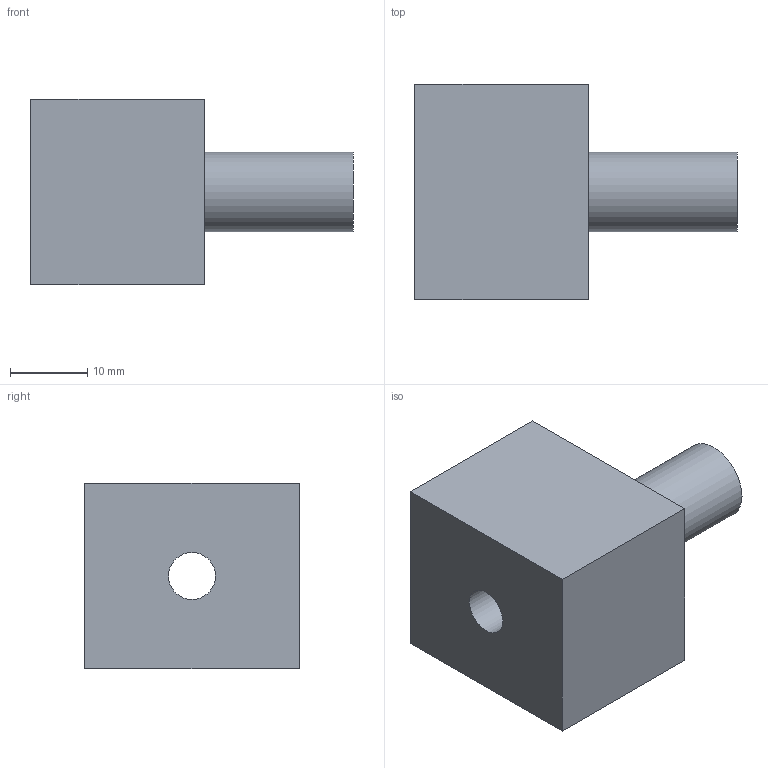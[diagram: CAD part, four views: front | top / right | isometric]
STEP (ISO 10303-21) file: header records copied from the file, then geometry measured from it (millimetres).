
FILE_DESCRIPTION(('Mechanical CAD reference from nasji.com'),'2;1');
FILE_NAME('NASJI.step','',(''),(''),'','NASJI distribution','');
FILE_SCHEMA(('AUTOMOTIVE_DESIGN { 1 0 10303 214 1 1 1 1 }'));
Length unit declared in the file: millimetre
Products named in the file (1): Open CASCADE STEP translator 7.8 172
Bounding box: 41.83 x 27.9 x 24.1 mm (x, y, z)
Volume: 15534.6 mm3; surface area: 5055.6 mm2
Topology: 1 solids, 1 shells, 9 faces, 18 edges, 12 vertices
Faces by surface type: plane 7, cylinder 2
Full cylindrical faces by diameter (mm): 6.1 x1, 10.3 x1
Entity records: 490 total; most frequent: CARTESIAN_POINT 88, DIRECTION 76, LINE 46, VECTOR 46, ORIENTED_EDGE 36, PCURVE 36, DEFINITIONAL_REPRESENTATION 36, EDGE_CURVE 18
